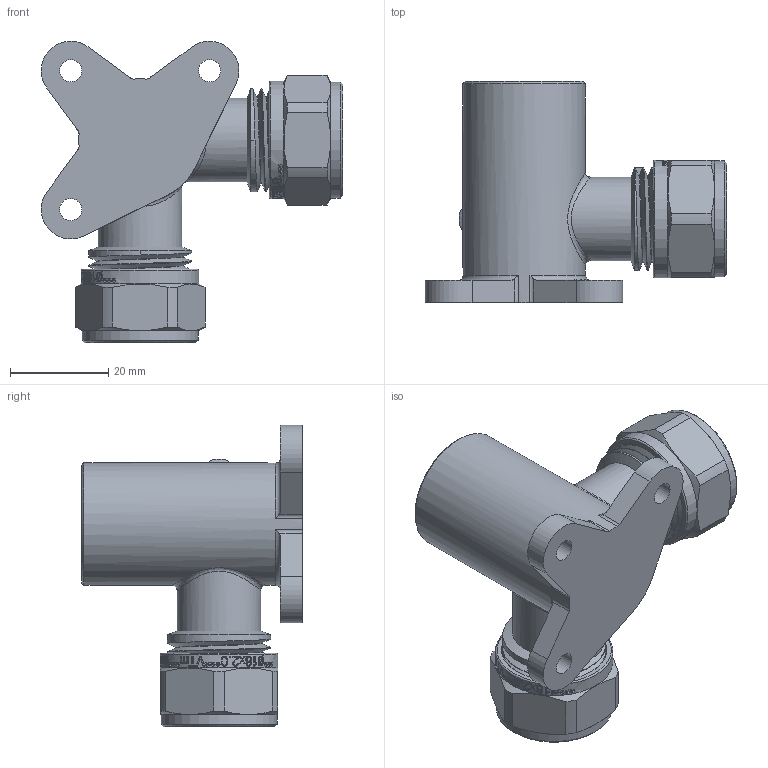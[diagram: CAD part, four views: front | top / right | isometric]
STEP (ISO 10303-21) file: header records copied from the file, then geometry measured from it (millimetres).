
FILE_DESCRIPTION(/* description */ (''),/* implementation_level */ '2;1');
FILE_NAME(/* name */ 'F:\Артём\00000\Работа удаленка\Обжимные фитинги\VTm.334.N.160416.stp',/* time_stamp */ '2020-07-30T15:06:02+03:00',/* author */ ('almis'),/* organization */ (''),/* preprocessor_version */ 'ST-DEVELOPER v18',/* originating_system */ 'Autodesk Inventor 2020',/* authorisation */ '');
FILE_SCHEMA (('AUTOMOTIVE_DESIGN { 1 0 10303 214 3 1 1 }'));
Products named in the file (1): VTm.334.N.160416
Bounding box: 61.41 x 45 x 61.41 mm (x, y, z)
Volume: 26608.5 mm3; surface area: 20310.2 mm2
Topology: 1 solids, 1 shells, 1295 faces, 3640 edges, 2456 vertices
Faces by surface type: bspline 680, plane 357, cylinder 173, torus 53, cone 32
Full cylindrical faces by diameter (mm): 4.5 x3, 8 x2, 9.4 x4, 11.75 x8, 16.124 x8, 16.2 x2, 16.724 x10, 17 x2, 17.124 x2, 17.4 x4, 18.6 x7, 21 x4, 22.2 x7, 23.624 x2, 23.924 x2, 25 x1
Entity records: 55929 total; most frequent: CARTESIAN_POINT 26691, ORIENTED_EDGE 7282, DIRECTION 4018, EDGE_CURVE 3641, VERTEX_POINT 2458, LINE 1524, VECTOR 1524, B_SPLINE_CURVE_WITH_KNOTS 1448
